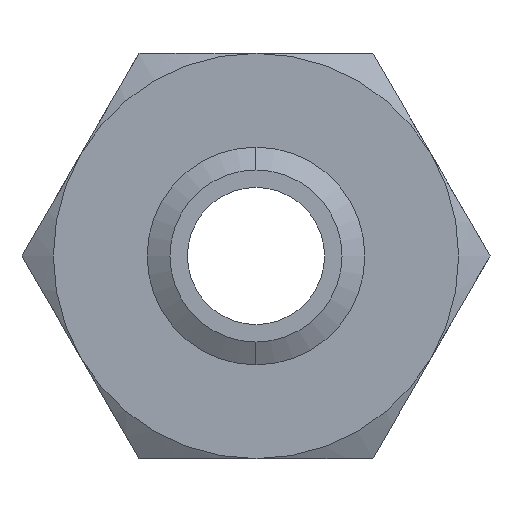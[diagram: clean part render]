
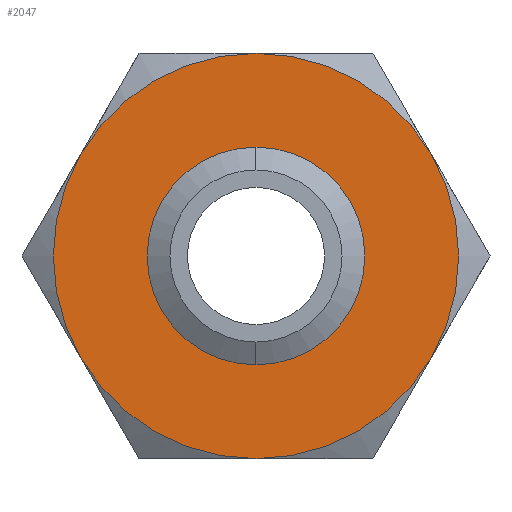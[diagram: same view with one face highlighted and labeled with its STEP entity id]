
A CAD part, front view. The second image highlights one B-rep face of the part: STEP entity #2047.
In plain terms, the highlighted planar face has unit normal (0, -1, 0).
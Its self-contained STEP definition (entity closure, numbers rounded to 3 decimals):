
#117 = EDGE_LOOP ( 'NONE', ( #2001, #2054 ) ) ;
#120 = EDGE_CURVE ( 'NONE', #150, #124, #695, .T. ) ;
#124 = VERTEX_POINT ( 'NONE', #744 ) ;
#126 = ORIENTED_EDGE ( 'NONE', *, *, #120, .F. ) ;
#127 = VERTEX_POINT ( 'NONE', #742 ) ;
#128 = ORIENTED_EDGE ( 'NONE', *, *, #130, .F. ) ;
#129 = EDGE_LOOP ( 'NONE', ( #2041, #139, #149, #132, #128, #126 ) ) ;
#130 = EDGE_CURVE ( 'NONE', #124, #127, #741, .T. ) ;
#131 = EDGE_CURVE ( 'NONE', #127, #147, #724, .T. ) ;
#132 = ORIENTED_EDGE ( 'NONE', *, *, #131, .F. ) ;
#133 = VERTEX_POINT ( 'NONE', #725 ) ;
#136 = VERTEX_POINT ( 'NONE', #767 ) ;
#138 = EDGE_CURVE ( 'NONE', #133, #136, #757, .T. ) ;
#139 = ORIENTED_EDGE ( 'NONE', *, *, #138, .F. ) ;
#146 = EDGE_CURVE ( 'NONE', #147, #133, #806, .T. ) ;
#147 = VERTEX_POINT ( 'NONE', #807 ) ;
#149 = ORIENTED_EDGE ( 'NONE', *, *, #146, .F. ) ;
#150 = VERTEX_POINT ( 'NONE', #799 ) ;
#383 = EDGE_CURVE ( 'NONE', #384, #385, #1181, .T. ) ;
#384 = VERTEX_POINT ( 'NONE', #1177 ) ;
#385 = VERTEX_POINT ( 'NONE', #1176 ) ;
#695 = CIRCLE ( 'NONE', #748, 32.5 ) ;
#721 = DIRECTION ( 'NONE',  ( 0., 0., 1. ) ) ;
#722 = DIRECTION ( 'NONE',  ( 0., 1., 0. ) ) ;
#723 = AXIS2_PLACEMENT_3D ( 'NONE', #730, #722, #721 ) ;
#724 = CIRCLE ( 'NONE', #723, 32.5 ) ;
#725 = CARTESIAN_POINT ( 'NONE',  ( -28.146, 0., 16.25 ) ) ;
#726 = DIRECTION ( 'NONE',  ( 0., 0., 1. ) ) ;
#727 = DIRECTION ( 'NONE',  ( 0., 1., 0. ) ) ;
#728 = CARTESIAN_POINT ( 'NONE',  ( 0., 0., 0. ) ) ;
#729 = AXIS2_PLACEMENT_3D ( 'NONE', #728, #727, #726 ) ;
#730 = CARTESIAN_POINT ( 'NONE',  ( 0., 0., 0. ) ) ;
#741 = CIRCLE ( 'NONE', #729, 32.5 ) ;
#742 = CARTESIAN_POINT ( 'NONE',  ( 0., 0., -32.5 ) ) ;
#744 = CARTESIAN_POINT ( 'NONE',  ( 28.146, 0., -16.25 ) ) ;
#745 = DIRECTION ( 'NONE',  ( 0., 0., 1. ) ) ;
#746 = DIRECTION ( 'NONE',  ( 0., 1., 0. ) ) ;
#747 = CARTESIAN_POINT ( 'NONE',  ( 0., 0., 0. ) ) ;
#748 = AXIS2_PLACEMENT_3D ( 'NONE', #747, #746, #745 ) ;
#754 = DIRECTION ( 'NONE',  ( 0., 0., 1. ) ) ;
#755 = DIRECTION ( 'NONE',  ( 0., 1., 0. ) ) ;
#756 = AXIS2_PLACEMENT_3D ( 'NONE', #769, #755, #754 ) ;
#757 = CIRCLE ( 'NONE', #756, 32.5 ) ;
#767 = CARTESIAN_POINT ( 'NONE',  ( 0., 0., 32.5 ) ) ;
#769 = CARTESIAN_POINT ( 'NONE',  ( 0., 0., 0. ) ) ;
#799 = CARTESIAN_POINT ( 'NONE',  ( 28.146, 0., 16.25 ) ) ;
#802 = DIRECTION ( 'NONE',  ( 0., 0., 1. ) ) ;
#803 = DIRECTION ( 'NONE',  ( 0., 1., 0. ) ) ;
#804 = CARTESIAN_POINT ( 'NONE',  ( 0., 0., 0. ) ) ;
#805 = AXIS2_PLACEMENT_3D ( 'NONE', #804, #803, #802 ) ;
#806 = CIRCLE ( 'NONE', #805, 32.5 ) ;
#807 = CARTESIAN_POINT ( 'NONE',  ( -28.146, 0., -16.25 ) ) ;
#1176 = CARTESIAN_POINT ( 'NONE',  ( 0., 0., 13.802 ) ) ;
#1177 = CARTESIAN_POINT ( 'NONE',  ( 0., 0., -13.802 ) ) ;
#1178 = DIRECTION ( 'NONE',  ( 0., 0., -1. ) ) ;
#1179 = DIRECTION ( 'NONE',  ( 0., -1., 0. ) ) ;
#1180 = AXIS2_PLACEMENT_3D ( 'NONE', #1185, #1179, #1178 ) ;
#1181 = CIRCLE ( 'NONE', #1180, 13.802 ) ;
#1185 = CARTESIAN_POINT ( 'NONE',  ( 0., 0., 0. ) ) ;
#1551 = DIRECTION ( 'NONE',  ( 0., 0., 1. ) ) ;
#1552 = DIRECTION ( 'NONE',  ( 0., 1., 0. ) ) ;
#1553 = CARTESIAN_POINT ( 'NONE',  ( 18.764, 0., -32.5 ) ) ;
#1554 = AXIS2_PLACEMENT_3D ( 'NONE', #1553, #1552, #1551 ) ;
#1555 = PLANE ( 'NONE',  #1554 ) ;
#1556 = FACE_BOUND ( 'NONE', #117, .T. ) ;
#1557 = FACE_OUTER_BOUND ( 'NONE', #129, .T. ) ;
#1589 = DIRECTION ( 'NONE',  ( 0., 0., -1. ) ) ;
#1590 = DIRECTION ( 'NONE',  ( 0., -1., 0. ) ) ;
#1591 = CARTESIAN_POINT ( 'NONE',  ( 0., 0., 0. ) ) ;
#1592 = AXIS2_PLACEMENT_3D ( 'NONE', #1591, #1590, #1589 ) ;
#1593 = CIRCLE ( 'NONE', #1592, 13.802 ) ;
#1610 = DIRECTION ( 'NONE',  ( 0., 0., 1. ) ) ;
#1611 = DIRECTION ( 'NONE',  ( 0., 1., 0. ) ) ;
#1612 = CARTESIAN_POINT ( 'NONE',  ( 0., 0., 0. ) ) ;
#1613 = AXIS2_PLACEMENT_3D ( 'NONE', #1612, #1611, #1610 ) ;
#1614 = CIRCLE ( 'NONE', #1613, 32.5 ) ;
#2001 = ORIENTED_EDGE ( 'NONE', *, *, #383, .F. ) ;
#2041 = ORIENTED_EDGE ( 'NONE', *, *, #2048, .F. ) ;
#2047 = ADVANCED_FACE ( 'NONE', ( #1557, #1556 ), #1555, .F. ) ;
#2048 = EDGE_CURVE ( 'NONE', #136, #150, #1614, .T. ) ;
#2053 = EDGE_CURVE ( 'NONE', #385, #384, #1593, .T. ) ;
#2054 = ORIENTED_EDGE ( 'NONE', *, *, #2053, .F. ) ;
